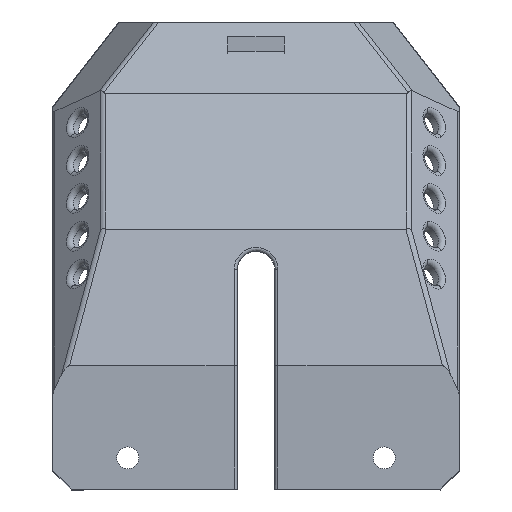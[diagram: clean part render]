
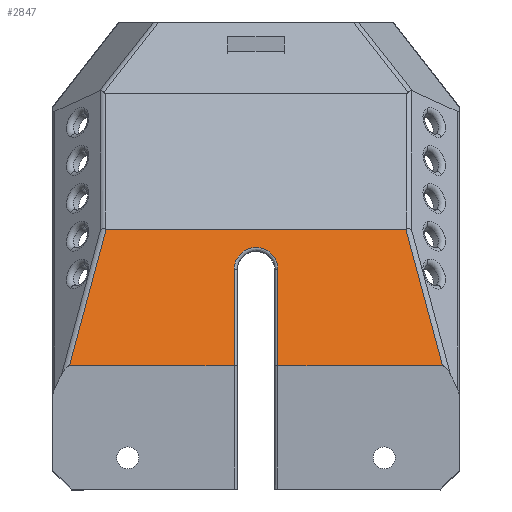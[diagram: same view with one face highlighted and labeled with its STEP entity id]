
A CAD part, top view. The second image highlights one B-rep face of the part: STEP entity #2847.
In plain terms, the highlighted planar face has unit normal (0, 0.259, 0.966).
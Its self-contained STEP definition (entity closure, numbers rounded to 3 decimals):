
#761=CARTESIAN_POINT('Vertex',(29.82,19.717,52.)) ;
#764=CARTESIAN_POINT('Line Origine',(16.66,19.717,52.)) ;
#768=CARTESIAN_POINT('Vertex',(3.5,19.717,52.)) ;
#2752=CARTESIAN_POINT('Vertex',(23.962,41.58,46.142)) ;
#2755=CARTESIAN_POINT('Line Origine',(27.651,27.811,49.831)) ;
#2768=CARTESIAN_POINT('Axis2P3D Location',(32.5,19.717,52.)) ;
#2773=CARTESIAN_POINT('Line Origine',(0.,41.58,46.142)) ;
#2777=CARTESIAN_POINT('Vertex',(-23.962,41.58,46.142)) ;
#2780=CARTESIAN_POINT('Line Origine',(-26.891,30.648,49.071)) ;
#2784=CARTESIAN_POINT('Vertex',(-29.82,19.717,52.)) ;
#2787=CARTESIAN_POINT('Line Origine',(-16.66,19.717,52.)) ;
#2791=CARTESIAN_POINT('Vertex',(-3.5,19.717,52.)) ;
#2794=CARTESIAN_POINT('Line Origine',(-3.5,27.423,49.935)) ;
#2798=CARTESIAN_POINT('Vertex',(-3.5,35.129,47.87)) ;
#2802=CARTESIAN_POINT('Control Point',(-3.5,35.129,47.87)) ;
#2803=CARTESIAN_POINT('Control Point',(-3.5,35.479,47.776)) ;
#2804=CARTESIAN_POINT('Control Point',(-3.456,35.829,47.683)) ;
#2805=CARTESIAN_POINT('Control Point',(-3.369,36.173,47.591)) ;
#2806=CARTESIAN_POINT('Control Point',(-3.11,36.828,47.415)) ;
#2807=CARTESIAN_POINT('Control Point',(-2.695,37.404,47.261)) ;
#2808=CARTESIAN_POINT('Control Point',(-2.452,37.664,47.191)) ;
#2809=CARTESIAN_POINT('Control Point',(-1.913,38.113,47.071)) ;
#2810=CARTESIAN_POINT('Control Point',(-1.274,38.417,46.989)) ;
#2811=CARTESIAN_POINT('Control Point',(-0.941,38.528,46.96)) ;
#2812=CARTESIAN_POINT('Control Point',(-0.26,38.662,46.924)) ;
#2813=CARTESIAN_POINT('Control Point',(0.434,38.628,46.933)) ;
#2814=CARTESIAN_POINT('Control Point',(0.773,38.569,46.949)) ;
#2815=CARTESIAN_POINT('Control Point',(1.265,38.419,46.989)) ;
#2816=CARTESIAN_POINT('Control Point',(1.718,38.186,47.051)) ;
#2817=CARTESIAN_POINT('Control Point',(1.864,38.099,47.075)) ;
#2818=CARTESIAN_POINT('Control Point',(2.219,37.858,47.139)) ;
#2819=CARTESIAN_POINT('Control Point',(2.532,37.566,47.217)) ;
#2820=CARTESIAN_POINT('Control Point',(2.705,37.373,47.269)) ;
#2821=CARTESIAN_POINT('Control Point',(3.066,36.884,47.4)) ;
#2822=CARTESIAN_POINT('Control Point',(3.315,36.331,47.548)) ;
#2823=CARTESIAN_POINT('Control Point',(3.417,35.997,47.638)) ;
#2824=CARTESIAN_POINT('Control Point',(3.484,35.619,47.739)) ;
#2825=CARTESIAN_POINT('Control Point',(3.499,35.238,47.841)) ;
#2826=CARTESIAN_POINT('Control Point',(3.5,35.202,47.851)) ;
#2827=CARTESIAN_POINT('Control Point',(3.5,35.166,47.861)) ;
#2828=CARTESIAN_POINT('Control Point',(3.5,35.129,47.87)) ;
#2829=CARTESIAN_POINT('Vertex',(3.5,35.129,47.87)) ;
#2832=CARTESIAN_POINT('Line Origine',(3.5,27.423,49.935)) ;
#765=DIRECTION('Vector Direction',(-1.,0.,0.)) ;
#2756=DIRECTION('Vector Direction',(0.251,-0.935,0.251)) ;
#2769=DIRECTION('Axis2P3D Direction',(0.,0.259,0.966)) ;
#2770=DIRECTION('Axis2P3D XDirection',(0.,0.966,-0.259)) ;
#2774=DIRECTION('Vector Direction',(-1.,0.,0.)) ;
#2781=DIRECTION('Vector Direction',(-0.251,-0.935,0.251)) ;
#2788=DIRECTION('Vector Direction',(-1.,0.,0.)) ;
#2795=DIRECTION('Vector Direction',(0.,0.966,-0.259)) ;
#2833=DIRECTION('Vector Direction',(0.,0.966,-0.259)) ;
#2771=AXIS2_PLACEMENT_3D('Plane Axis2P3D',#2768,#2769,#2770) ;
#2838=ORIENTED_EDGE('',*,*,#2779,.T.) ;
#2839=ORIENTED_EDGE('',*,*,#2786,.T.) ;
#2840=ORIENTED_EDGE('',*,*,#2793,.F.) ;
#2841=ORIENTED_EDGE('',*,*,#2800,.T.) ;
#2842=ORIENTED_EDGE('',*,*,#2831,.T.) ;
#2843=ORIENTED_EDGE('',*,*,#2836,.T.) ;
#2844=ORIENTED_EDGE('',*,*,#770,.F.) ;
#2845=ORIENTED_EDGE('',*,*,#2759,.T.) ;
#766=VECTOR('Line Direction',#765,1.) ;
#2757=VECTOR('Line Direction',#2756,1.) ;
#2775=VECTOR('Line Direction',#2774,1.) ;
#2782=VECTOR('Line Direction',#2781,1.) ;
#2789=VECTOR('Line Direction',#2788,1.) ;
#2796=VECTOR('Line Direction',#2795,1.) ;
#2834=VECTOR('Line Direction',#2833,1.) ;
#2847=ADVANCED_FACE('Corps principal',(#2846),#2772,.T.) ;
#2801=B_SPLINE_CURVE_WITH_KNOTS('',5,(#2802,#2803,#2804,#2805,#2806,#2807,#2808,#2809,#2810,#2811,#2812,#2813,#2814,#2815,#2816,#2817,#2818,#2819,#2820,#2821,#2822,#2823,#2824,#2825,#2826,#2827,#2828),.UNSPECIFIED.,.F.,.U.,(6,3,3,3,3,3,3,3,6),(7.388,9.787,12.155,14.447,16.694,17.822,19.554,21.918,22.166),.UNSPECIFIED.) ;
#770=EDGE_CURVE('',#762,#769,#767,.T.) ;
#2759=EDGE_CURVE('',#762,#2753,#2758,.F.) ;
#2779=EDGE_CURVE('',#2753,#2778,#2776,.T.) ;
#2786=EDGE_CURVE('',#2778,#2785,#2783,.T.) ;
#2793=EDGE_CURVE('',#2792,#2785,#2790,.T.) ;
#2800=EDGE_CURVE('',#2792,#2799,#2797,.T.) ;
#2831=EDGE_CURVE('',#2799,#2830,#2801,.T.) ;
#2836=EDGE_CURVE('',#2830,#769,#2835,.F.) ;
#2837=EDGE_LOOP('',(#2838,#2839,#2840,#2841,#2842,#2843,#2844,#2845)) ;
#2846=FACE_OUTER_BOUND('',#2837,.T.) ;
#767=LINE('Line',#764,#766) ;
#2758=LINE('Line',#2755,#2757) ;
#2776=LINE('Line',#2773,#2775) ;
#2783=LINE('Line',#2780,#2782) ;
#2790=LINE('Line',#2787,#2789) ;
#2797=LINE('Line',#2794,#2796) ;
#2835=LINE('Line',#2832,#2834) ;
#2772=PLANE('',#2771) ;
#762=VERTEX_POINT('',#761) ;
#769=VERTEX_POINT('',#768) ;
#2753=VERTEX_POINT('',#2752) ;
#2778=VERTEX_POINT('',#2777) ;
#2785=VERTEX_POINT('',#2784) ;
#2792=VERTEX_POINT('',#2791) ;
#2799=VERTEX_POINT('',#2798) ;
#2830=VERTEX_POINT('',#2829) ;
